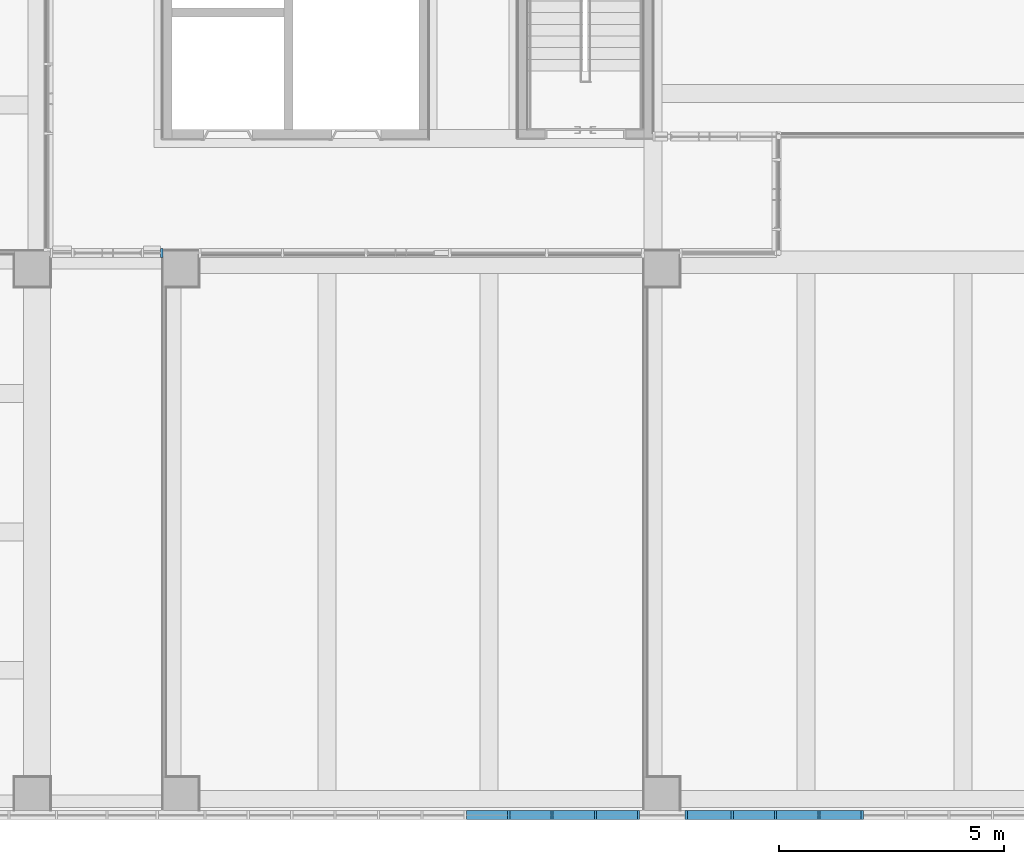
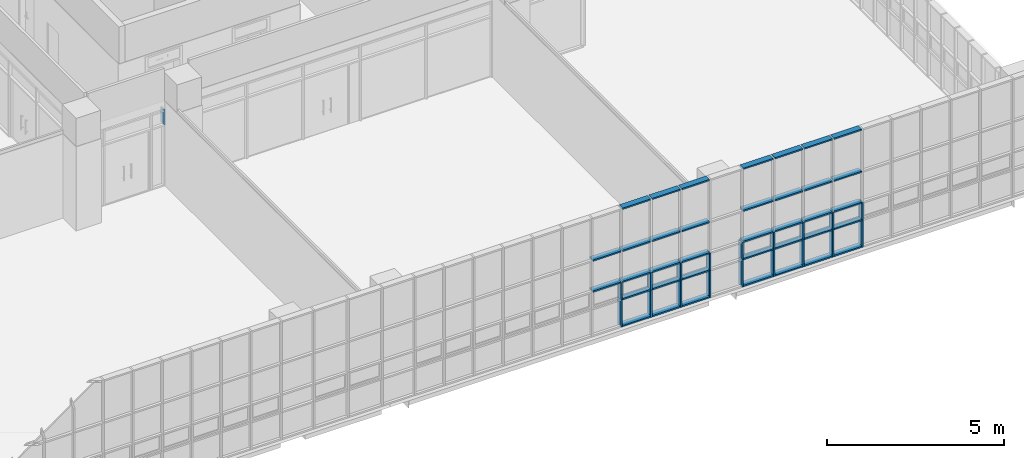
# One storey, part 16 of 76: 56 members, 2 elements without a shape of their own.
"""IFC2X3 building model written with IfcOpenShell, lengths in millimetres."""

from ifc_helpers import new_model, entity, si_unit, converted_unit, derived_unit, direction, frame, origin, origin_2d_with_axis, place, context, subcontext, project, spatial, rectangle, extrude, source, transform, mapped, material, type_object, type_shapes, element, aggregate, save


model = new_model("IFC2X3")

# Units and contexts
model_context = context("Model", 3, precision=0.01, world=origin(), true_north=direction((6.123031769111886e-17, 1.0)))
body_context = subcontext(model_context, "Body", "Model", "MODEL_VIEW")
ifc_project = project(units=[si_unit("LENGTHUNIT", "METRE", prefix="MILLI"), si_unit("AREAUNIT", "SQUARE_METRE"), si_unit("VOLUMEUNIT", "CUBIC_METRE"), converted_unit("PLANEANGLEUNIT", "DEGREE", entity("IfcRatioMeasure", 0.017453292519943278), si_unit("PLANEANGLEUNIT", "RADIAN"), dimensions=[0, 0, 0, 0, 0, 0, 0]), si_unit("MASSUNIT", "GRAM", prefix="KILO"), derived_unit("MASSDENSITYUNIT", [(si_unit("MASSUNIT", "GRAM", prefix="KILO"), 1), (si_unit("LENGTHUNIT", "METRE"), -3)]), derived_unit("MOMENTOFINERTIAUNIT", [(si_unit("LENGTHUNIT", "METRE"), 4)]), si_unit("TIMEUNIT", "SECOND"), si_unit("FREQUENCYUNIT", "HERTZ"), si_unit("THERMODYNAMICTEMPERATUREUNIT", "DEGREE_CELSIUS"), derived_unit("THERMALTRANSMITTANCEUNIT", [(si_unit("MASSUNIT", "GRAM", prefix="KILO"), 1), (si_unit("THERMODYNAMICTEMPERATUREUNIT", "KELVIN"), -1), (si_unit("TIMEUNIT", "SECOND"), -3)]), derived_unit("VOLUMETRICFLOWRATEUNIT", [(si_unit("LENGTHUNIT", "METRE"), 3), (si_unit("TIMEUNIT", "SECOND"), -1)]), derived_unit("MASSFLOWRATEUNIT", [(si_unit("MASSUNIT", "GRAM", prefix="KILO"), 1), (si_unit("TIMEUNIT", "SECOND"), -1)]), derived_unit("ROTATIONALFREQUENCYUNIT", [(si_unit("TIMEUNIT", "SECOND"), -1)]), si_unit("ELECTRICCURRENTUNIT", "AMPERE"), si_unit("ELECTRICVOLTAGEUNIT", "VOLT"), si_unit("POWERUNIT", "WATT"), si_unit("FORCEUNIT", "NEWTON", prefix="KILO"), si_unit("ILLUMINANCEUNIT", "LUX"), si_unit("LUMINOUSFLUXUNIT", "LUMEN"), si_unit("LUMINOUSINTENSITYUNIT", "CANDELA"), derived_unit("USERDEFINED", [(si_unit("MASSUNIT", "GRAM", prefix="KILO"), -1), (si_unit("LENGTHUNIT", "METRE"), -2), (si_unit("TIMEUNIT", "SECOND"), 3), (si_unit("LUMINOUSFLUXUNIT", "LUMEN"), 1)]), derived_unit("SOUNDPOWERUNIT", [(si_unit("MASSUNIT", "GRAM", prefix="KILO"), 1), (si_unit("LENGTHUNIT", "METRE"), 2), (si_unit("TIMEUNIT", "SECOND"), -3)]), derived_unit("SOUNDPRESSUREUNIT", [(si_unit("MASSUNIT", "GRAM", prefix="KILO"), 1), (si_unit("LENGTHUNIT", "METRE"), -1), (si_unit("TIMEUNIT", "SECOND"), -2)]), derived_unit("LINEARVELOCITYUNIT", [(si_unit("LENGTHUNIT", "METRE"), 1), (si_unit("TIMEUNIT", "SECOND"), -1)]), si_unit("PRESSUREUNIT", "PASCAL"), derived_unit("USERDEFINED", [(si_unit("LENGTHUNIT", "METRE"), -2), (si_unit("MASSUNIT", "GRAM", prefix="KILO"), 1), (si_unit("TIMEUNIT", "SECOND"), -2)]), derived_unit("LINEARFORCEUNIT", [(si_unit("MASSUNIT", "GRAM", prefix="KILO"), 1), (si_unit("LENGTHUNIT", "METRE"), 1), (si_unit("TIMEUNIT", "SECOND"), -2), (si_unit("LENGTHUNIT", "METRE"), -1)]), derived_unit("PLANARFORCEUNIT", [(si_unit("MASSUNIT", "GRAM", prefix="KILO"), 1), (si_unit("LENGTHUNIT", "METRE"), 1), (si_unit("TIMEUNIT", "SECOND"), -2), (si_unit("LENGTHUNIT", "METRE"), -2)])], contexts=[model_context])

# Site, building, storey
site_placement = place(None, frame((-14167.972527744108, -657.2125860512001, 0.0)))
site = spatial("IfcSite", under=ifc_project, at=site_placement, Name="Default", CompositionType="ELEMENT")
building_placement = place(site_placement, origin())
building = spatial("IfcBuilding", under=site, at=building_placement, Name="Sample Building", CompositionType="ELEMENT")
storey_placement = place(building_placement, frame((0.0, 0.0, 9300.0)))
storey = spatial("IfcBuildingStorey", under=building, at=storey_placement, Name="지상 3층", CompositionType="ELEMENT", Elevation=9300.000000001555)

# Curtain wall, members
curtain_wall_type = type_object("IfcCurtainWallType", Name="커튼월:CW112-스테인리스 스틸 커튼월", PredefinedType="NOTDEFINED")
curtain_wall_1_placement = place(storey_placement, frame((0.0, 0.0, -9300.0)))
curtain_wall_1 = element("IfcCurtainWall", 1, at=curtain_wall_1_placement, inside=storey, type_object=curtain_wall_type, Name="커튼월:CW112-스테인리스 스틸 커튼월", ObjectType="커튼월:CW112-스테인리스 스틸 커튼월")
ifc_material = material(Name="<Unnamed>")
member_type_1 = type_object("IfcMemberType", Name="직사각형 멀리언:CW200-직사각형 멀리언 50x200mm", PredefinedType="MULLION", material=ifc_material)
shared_shape_1 = source(origin(), body_context, "Body", "SweptSolid", [
    extrude(rectangle(XDim=200.0, YDim=50.0, at=origin_2d_with_axis()), frame((0.0, 0.0, -600.0), z_axis=(0.0, 0.0, 1.0), x_axis=(0.0, -1.0, 0.0)), (0.0, 0.0, 1.0), 600.0),
])
type_shapes(member_type_1, [shared_shape_1])
member_1_placement = place(curtain_wall_1_placement, frame((37760.15607007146, 507.21229514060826, 10330.0), z_axis=(0.0, 0.0, -1.0), x_axis=(1.0, 0.0, 0.0)))
member_1 = element("IfcMember", 2, at=member_1_placement, type_object=member_type_1, material=ifc_material, Name="직사각형 멀리언:CW200-직사각형 멀리언 50x200mm", ObjectType="직사각형 멀리언:CW200-직사각형 멀리언 50x200mm", context=body_context, shape_type="MappedRepresentation", body=[
    mapped(shared_shape_1, transform((0.0, 0.0, 0.0), scale=1.0)),
])
member_2_placement = place(curtain_wall_1_placement, frame((38725.156070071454, 507.21229514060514, 10330.0), z_axis=(0.0, 0.0, -1.0), x_axis=(1.0, 0.0, 0.0)))
member_2 = element("IfcMember", 3, at=member_2_placement, type_object=member_type_1, material=ifc_material, Name="직사각형 멀리언:CW200-직사각형 멀리언 50x200mm", ObjectType="직사각형 멀리언:CW200-직사각형 멀리언 50x200mm", context=body_context, shape_type="MappedRepresentation", body=[
    mapped(shared_shape_1, transform((0.0, 0.0, 0.0), scale=1.0)),
])
member_3_placement = place(curtain_wall_1_placement, frame((39690.15607007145, 507.212295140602, 10330.0), z_axis=(0.0, 0.0, -1.0), x_axis=(1.0, 0.0, 0.0)))
member_3 = element("IfcMember", 4, at=member_3_placement, type_object=member_type_1, material=ifc_material, Name="직사각형 멀리언:CW200-직사각형 멀리언 50x200mm", ObjectType="직사각형 멀리언:CW200-직사각형 멀리언 50x200mm", context=body_context, shape_type="MappedRepresentation", body=[
    mapped(shared_shape_1, transform((0.0, 0.0, 0.0), scale=1.0)),
])
member_4_placement = place(curtain_wall_1_placement, frame((41710.15607007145, 507.21229514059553, 10330.0), z_axis=(0.0, 0.0, -1.0), x_axis=(1.0, 0.0, 0.0)))
member_4 = element("IfcMember", 5, at=member_4_placement, type_object=member_type_1, material=ifc_material, Name="직사각형 멀리언:CW200-직사각형 멀리언 50x200mm", ObjectType="직사각형 멀리언:CW200-직사각형 멀리언 50x200mm", context=body_context, shape_type="MappedRepresentation", body=[
    mapped(shared_shape_1, transform((0.0, 0.0, 0.0), scale=1.0)),
])
member_5_placement = place(curtain_wall_1_placement, frame((42730.156070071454, 507.2122951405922, 10330.0), z_axis=(0.0, 0.0, -1.0), x_axis=(1.0, 0.0, 0.0)))
member_5 = element("IfcMember", 6, at=member_5_placement, type_object=member_type_1, material=ifc_material, Name="직사각형 멀리언:CW200-직사각형 멀리언 50x200mm", ObjectType="직사각형 멀리언:CW200-직사각형 멀리언 50x200mm", context=body_context, shape_type="MappedRepresentation", body=[
    mapped(shared_shape_1, transform((0.0, 0.0, 0.0), scale=1.0)),
])
member_6_placement = place(curtain_wall_1_placement, frame((43695.156070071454, 507.2122951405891, 10330.0), z_axis=(0.0, 0.0, -1.0), x_axis=(1.0, 0.0, 0.0)))
member_6 = element("IfcMember", 7, at=member_6_placement, type_object=member_type_1, material=ifc_material, Name="직사각형 멀리언:CW200-직사각형 멀리언 50x200mm", ObjectType="직사각형 멀리언:CW200-직사각형 멀리언 50x200mm", context=body_context, shape_type="MappedRepresentation", body=[
    mapped(shared_shape_1, transform((0.0, 0.0, 0.0), scale=1.0)),
])
member_7_placement = place(curtain_wall_1_placement, frame((44660.15607007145, 507.212295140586, 10330.0), z_axis=(0.0, 0.0, -1.0), x_axis=(1.0, 0.0, 0.0)))
member_7 = element("IfcMember", 8, at=member_7_placement, type_object=member_type_1, material=ifc_material, Name="직사각형 멀리언:CW200-직사각형 멀리언 50x200mm", ObjectType="직사각형 멀리언:CW200-직사각형 멀리언 50x200mm", context=body_context, shape_type="MappedRepresentation", body=[
    mapped(shared_shape_1, transform((0.0, 0.0, 0.0), scale=1.0)),
])
member_8_placement = place(curtain_wall_1_placement, frame((45625.15607007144, 507.21229514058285, 10330.0), z_axis=(0.0, 0.0, -1.0), x_axis=(1.0, 0.0, 0.0)))
member_8 = element("IfcMember", 9, at=member_8_placement, type_object=member_type_1, material=ifc_material, Name="직사각형 멀리언:CW200-직사각형 멀리언 50x200mm", ObjectType="직사각형 멀리언:CW200-직사각형 멀리언 50x200mm", context=body_context, shape_type="MappedRepresentation", body=[
    mapped(shared_shape_1, transform((0.0, 0.0, 0.0), scale=1.0)),
])
member_9_placement = place(curtain_wall_1_placement, frame((40650.15607007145, 507.2122951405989, 10330.0), z_axis=(0.0, 0.0, -1.0), x_axis=(1.0, 0.0, 0.0)))
member_9 = element("IfcMember", 10, at=member_9_placement, type_object=member_type_1, material=ifc_material, Name="직사각형 멀리언:CW200-직사각형 멀리언 50x200mm", ObjectType="직사각형 멀리언:CW200-직사각형 멀리언 50x200mm", context=body_context, shape_type="MappedRepresentation", body=[
    mapped(shared_shape_1, transform((0.0, 0.0, 0.0), scale=1.0)),
])

# Curtain wall, member
curtain_wall_2_placement = place(storey_placement, frame((0.0, 0.0, -9300.0)))
curtain_wall_2 = element("IfcCurtainWall", 11, at=curtain_wall_2_placement, inside=storey, type_object=curtain_wall_type, Name="커튼월:CW112-스테인리스 스틸 커튼월", ObjectType="커튼월:CW112-스테인리스 스틸 커튼월")
member_type_2 = type_object("IfcMemberType", Name="직사각형 멀리언:CW200-직사각형 멀리언 50x200mm", PredefinedType="MULLION", material=ifc_material)
shared_shape_2 = source(origin(), body_context, "Body", "SweptSolid", [
    extrude(rectangle(XDim=200.0, YDim=50.0, at=origin_2d_with_axis()), frame((-25.0, 0.0, -520.0), z_axis=(0.0, 0.0, 1.0), x_axis=(0.0, -1.0, 0.0)), (0.0, 0.0, 1.0), 520.0000000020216),
])
type_shapes(member_type_2, [shared_shape_2])
member_10_placement = place(curtain_wall_2_placement, frame((30067.972463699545, 13012.212307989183, 12000.0)))
member_10 = element("IfcMember", 12, at=member_10_placement, type_object=member_type_2, material=ifc_material, Name="직사각형 멀리언:CW200-직사각형 멀리언 50x200mm", ObjectType="직사각형 멀리언:CW200-직사각형 멀리언 50x200mm", context=body_context, shape_type="MappedRepresentation", body=[
    mapped(shared_shape_2, transform((0.0, 0.0, 0.0), scale=1.0)),
])
aggregate(curtain_wall_2, [member_10])

# Member
member_type_3 = type_object("IfcMemberType", Name="직사각형 멀리언:CW200-직사각형 멀리언 50x200mm", PredefinedType="MULLION", material=ifc_material)
shared_shape_3 = source(origin(), body_context, "Body", "SweptSolid", [
    extrude(rectangle(XDim=200.0, YDim=50.0, at=origin_2d_with_axis()), frame((0.0, 0.0, -950.0), z_axis=(0.0, 0.0, 1.0), x_axis=(0.0, -1.0, 0.0)), (0.0, 0.0, 1.0), 949.9999999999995),
])
type_shapes(member_type_3, [shared_shape_3])
member_11_placement = place(curtain_wall_1_placement, frame((37760.15607007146, 507.21229514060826, 9380.0), z_axis=(0.0, 0.0, -1.0), x_axis=(1.0, 0.0, 0.0)))
member_11 = element("IfcMember", 13, at=member_11_placement, type_object=member_type_3, material=ifc_material, Name="직사각형 멀리언:CW200-직사각형 멀리언 50x200mm", ObjectType="직사각형 멀리언:CW200-직사각형 멀리언 50x200mm", context=body_context, shape_type="MappedRepresentation", body=[
    mapped(shared_shape_3, transform((0.0, 0.0, 0.0), scale=1.0)),
])

member_12_placement = place(curtain_wall_1_placement, frame((38725.156070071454, 507.21229514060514, 9380.0), z_axis=(0.0, 0.0, -1.0), x_axis=(1.0, 0.0, 0.0)))
member_12 = element("IfcMember", 14, at=member_12_placement, type_object=member_type_3, material=ifc_material, Name="직사각형 멀리언:CW200-직사각형 멀리언 50x200mm", ObjectType="직사각형 멀리언:CW200-직사각형 멀리언 50x200mm", context=body_context, shape_type="MappedRepresentation", body=[
    mapped(shared_shape_3, transform((0.0, 0.0, 0.0), scale=1.0)),
])

member_13_placement = place(curtain_wall_1_placement, frame((39690.15607007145, 507.212295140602, 9380.0), z_axis=(0.0, 0.0, -1.0), x_axis=(1.0, 0.0, 0.0)))
member_13 = element("IfcMember", 15, at=member_13_placement, type_object=member_type_3, material=ifc_material, Name="직사각형 멀리언:CW200-직사각형 멀리언 50x200mm", ObjectType="직사각형 멀리언:CW200-직사각형 멀리언 50x200mm", context=body_context, shape_type="MappedRepresentation", body=[
    mapped(shared_shape_3, transform((0.0, 0.0, 0.0), scale=1.0)),
])

member_14_placement = place(curtain_wall_1_placement, frame((41710.15607007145, 507.21229514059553, 9380.0), z_axis=(0.0, 0.0, -1.0), x_axis=(1.0, 0.0, 0.0)))
member_14 = element("IfcMember", 16, at=member_14_placement, type_object=member_type_3, material=ifc_material, Name="직사각형 멀리언:CW200-직사각형 멀리언 50x200mm", ObjectType="직사각형 멀리언:CW200-직사각형 멀리언 50x200mm", context=body_context, shape_type="MappedRepresentation", body=[
    mapped(shared_shape_3, transform((0.0, 0.0, 0.0), scale=1.0)),
])

member_15_placement = place(curtain_wall_1_placement, frame((42730.156070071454, 507.2122951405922, 9380.0), z_axis=(0.0, 0.0, -1.0), x_axis=(1.0, 0.0, 0.0)))
member_15 = element("IfcMember", 17, at=member_15_placement, type_object=member_type_3, material=ifc_material, Name="직사각형 멀리언:CW200-직사각형 멀리언 50x200mm", ObjectType="직사각형 멀리언:CW200-직사각형 멀리언 50x200mm", context=body_context, shape_type="MappedRepresentation", body=[
    mapped(shared_shape_3, transform((0.0, 0.0, 0.0), scale=1.0)),
])

member_16_placement = place(curtain_wall_1_placement, frame((43695.15607007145, 507.2122951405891, 9380.0), z_axis=(0.0, 0.0, -1.0), x_axis=(1.0, 0.0, 0.0)))
member_16 = element("IfcMember", 18, at=member_16_placement, type_object=member_type_3, material=ifc_material, Name="직사각형 멀리언:CW200-직사각형 멀리언 50x200mm", ObjectType="직사각형 멀리언:CW200-직사각형 멀리언 50x200mm", context=body_context, shape_type="MappedRepresentation", body=[
    mapped(shared_shape_3, transform((0.0, 0.0, 0.0), scale=1.0)),
])

member_17_placement = place(curtain_wall_1_placement, frame((44660.15607007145, 507.212295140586, 9380.0), z_axis=(0.0, 0.0, -1.0), x_axis=(1.0, 0.0, 0.0)))
member_17 = element("IfcMember", 19, at=member_17_placement, type_object=member_type_3, material=ifc_material, Name="직사각형 멀리언:CW200-직사각형 멀리언 50x200mm", ObjectType="직사각형 멀리언:CW200-직사각형 멀리언 50x200mm", context=body_context, shape_type="MappedRepresentation", body=[
    mapped(shared_shape_3, transform((0.0, 0.0, 0.0), scale=1.0)),
])

member_18_placement = place(curtain_wall_1_placement, frame((45625.15607007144, 507.21229514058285, 9380.0), z_axis=(0.0, 0.0, -1.0), x_axis=(1.0, 0.0, 0.0)))
member_18 = element("IfcMember", 20, at=member_18_placement, type_object=member_type_3, material=ifc_material, Name="직사각형 멀리언:CW200-직사각형 멀리언 50x200mm", ObjectType="직사각형 멀리언:CW200-직사각형 멀리언 50x200mm", context=body_context, shape_type="MappedRepresentation", body=[
    mapped(shared_shape_3, transform((0.0, 0.0, 0.0), scale=1.0)),
])

member_19_placement = place(curtain_wall_1_placement, frame((40650.15607007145, 507.2122951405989, 9380.0), z_axis=(0.0, 0.0, -1.0), x_axis=(1.0, 0.0, 0.0)))
member_19 = element("IfcMember", 21, at=member_19_placement, type_object=member_type_3, material=ifc_material, Name="직사각형 멀리언:CW200-직사각형 멀리언 50x200mm", ObjectType="직사각형 멀리언:CW200-직사각형 멀리언 50x200mm", context=body_context, shape_type="MappedRepresentation", body=[
    mapped(shared_shape_3, transform((0.0, 0.0, 0.0), scale=1.0)),
])

member_type_4 = type_object("IfcMemberType", Name="직사각형 멀리언:CW200-직사각형 멀리언 50x200mm", PredefinedType="MULLION", material=ifc_material)
shared_shape_4 = source(origin(), body_context, "Body", "SweptSolid", [
    extrude(rectangle(XDim=200.0, YDim=50.0, at=origin_2d_with_axis()), frame((-25.0, 0.0, -915.0), z_axis=(0.0, 0.0, 1.0), x_axis=(0.0, -1.0, 0.0)), (0.0, 0.0, 1.0), 914.9999999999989),
])
type_shapes(member_type_4, [shared_shape_4])
member_20_placement = place(curtain_wall_1_placement, frame((37785.15607007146, 507.21229514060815, 9380.0), z_axis=(-1.0, 0.0, 0.0), x_axis=(0.0, 0.0, -1.0)))
member_20 = element("IfcMember", 22, at=member_20_placement, type_object=member_type_4, material=ifc_material, Name="직사각형 멀리언:CW200-직사각형 멀리언 50x200mm", ObjectType="직사각형 멀리언:CW200-직사각형 멀리언 50x200mm", context=body_context, shape_type="MappedRepresentation", body=[
    mapped(shared_shape_4, transform((0.0, 0.0, 0.0), scale=1.0)),
])

member_21_placement = place(curtain_wall_1_placement, frame((38750.156070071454, 507.2122951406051, 9380.0), z_axis=(-1.0, 0.0, 0.0), x_axis=(0.0, 0.0, -1.0)))
member_21 = element("IfcMember", 23, at=member_21_placement, type_object=member_type_4, material=ifc_material, Name="직사각형 멀리언:CW200-직사각형 멀리언 50x200mm", ObjectType="직사각형 멀리언:CW200-직사각형 멀리언 50x200mm", context=body_context, shape_type="MappedRepresentation", body=[
    mapped(shared_shape_4, transform((0.0, 0.0, 0.0), scale=1.0)),
])

member_22_placement = place(curtain_wall_1_placement, frame((42755.156070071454, 507.2122951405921, 9380.0), z_axis=(-1.0, 0.0, 0.0), x_axis=(0.0, 0.0, -1.0)))
member_22 = element("IfcMember", 24, at=member_22_placement, type_object=member_type_4, material=ifc_material, Name="직사각형 멀리언:CW200-직사각형 멀리언 50x200mm", ObjectType="직사각형 멀리언:CW200-직사각형 멀리언 50x200mm", context=body_context, shape_type="MappedRepresentation", body=[
    mapped(shared_shape_4, transform((0.0, 0.0, 0.0), scale=1.0)),
])

member_23_placement = place(curtain_wall_1_placement, frame((43720.156070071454, 507.212295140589, 9380.0), z_axis=(-1.0, 0.0, 0.0), x_axis=(0.0, 0.0, -1.0)))
member_23 = element("IfcMember", 25, at=member_23_placement, type_object=member_type_4, material=ifc_material, Name="직사각형 멀리언:CW200-직사각형 멀리언 50x200mm", ObjectType="직사각형 멀리언:CW200-직사각형 멀리언 50x200mm", context=body_context, shape_type="MappedRepresentation", body=[
    mapped(shared_shape_4, transform((0.0, 0.0, 0.0), scale=1.0)),
])

member_24_placement = place(curtain_wall_1_placement, frame((44685.15607007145, 507.2122951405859, 9380.0), z_axis=(-1.0, 0.0, 0.0), x_axis=(0.0, 0.0, -1.0)))
member_24 = element("IfcMember", 26, at=member_24_placement, type_object=member_type_4, material=ifc_material, Name="직사각형 멀리언:CW200-직사각형 멀리언 50x200mm", ObjectType="직사각형 멀리언:CW200-직사각형 멀리언 50x200mm", context=body_context, shape_type="MappedRepresentation", body=[
    mapped(shared_shape_4, transform((0.0, 0.0, 0.0), scale=1.0)),
])

member_type_5 = type_object("IfcMemberType", Name="직사각형 멀리언:CW200-직사각형 멀리언 50x200mm", PredefinedType="MULLION", material=ifc_material)
shared_shape_5 = source(origin(), body_context, "Body", "SweptSolid", [
    extrude(rectangle(XDim=200.0, YDim=50.0, at=origin_2d_with_axis()), frame((0.0, 0.0, -915.0), z_axis=(0.0, 0.0, 1.0), x_axis=(0.0, -1.0, 0.0)), (0.0, 0.0, 1.0), 915.000000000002),
])
type_shapes(member_type_5, [shared_shape_5])
member_25_placement = place(curtain_wall_1_placement, frame((38700.156070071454, 507.2122951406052, 10330.0), z_axis=(1.0, 0.0, 0.0), x_axis=(0.0, 0.0, 1.0)))
member_25 = element("IfcMember", 27, at=member_25_placement, type_object=member_type_5, material=ifc_material, Name="직사각형 멀리언:CW200-직사각형 멀리언 50x200mm", ObjectType="직사각형 멀리언:CW200-직사각형 멀리언 50x200mm", context=body_context, shape_type="MappedRepresentation", body=[
    mapped(shared_shape_5, transform((0.0, 0.0, 0.0), scale=1.0)),
])

member_26_placement = place(curtain_wall_1_placement, frame((39665.15607007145, 507.21229514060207, 10330.0), z_axis=(1.0, 0.0, 0.0), x_axis=(0.0, 0.0, 1.0)))
member_26 = element("IfcMember", 28, at=member_26_placement, type_object=member_type_5, material=ifc_material, Name="직사각형 멀리언:CW200-직사각형 멀리언 50x200mm", ObjectType="직사각형 멀리언:CW200-직사각형 멀리언 50x200mm", context=body_context, shape_type="MappedRepresentation", body=[
    mapped(shared_shape_5, transform((0.0, 0.0, 0.0), scale=1.0)),
])

member_27_placement = place(curtain_wall_1_placement, frame((37735.15607007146, 507.2122951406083, 10930.0), z_axis=(1.0, 0.0, 0.0), x_axis=(0.0, 0.0, 1.0)))
member_27 = element("IfcMember", 29, at=member_27_placement, type_object=member_type_5, material=ifc_material, Name="직사각형 멀리언:CW200-직사각형 멀리언 50x200mm", ObjectType="직사각형 멀리언:CW200-직사각형 멀리언 50x200mm", context=body_context, shape_type="MappedRepresentation", body=[
    mapped(shared_shape_5, transform((0.0, 0.0, 0.0), scale=1.0)),
])

member_28_placement = place(curtain_wall_1_placement, frame((38700.156070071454, 507.2122951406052, 10930.0), z_axis=(1.0, 0.0, 0.0), x_axis=(0.0, 0.0, 1.0)))
member_28 = element("IfcMember", 30, at=member_28_placement, type_object=member_type_5, material=ifc_material, Name="직사각형 멀리언:CW200-직사각형 멀리언 50x200mm", ObjectType="직사각형 멀리언:CW200-직사각형 멀리언 50x200mm", context=body_context, shape_type="MappedRepresentation", body=[
    mapped(shared_shape_5, transform((0.0, 0.0, 0.0), scale=1.0)),
])

member_29_placement = place(curtain_wall_1_placement, frame((39665.15607007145, 507.21229514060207, 10930.0), z_axis=(1.0, 0.0, 0.0), x_axis=(0.0, 0.0, 1.0)))
member_29 = element("IfcMember", 31, at=member_29_placement, type_object=member_type_5, material=ifc_material, Name="직사각형 멀리언:CW200-직사각형 멀리언 50x200mm", ObjectType="직사각형 멀리언:CW200-직사각형 멀리언 50x200mm", context=body_context, shape_type="MappedRepresentation", body=[
    mapped(shared_shape_5, transform((0.0, 0.0, 0.0), scale=1.0)),
])

member_30_placement = place(curtain_wall_1_placement, frame((37735.15607007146, 507.2122951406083, 12000.0), z_axis=(1.0, 0.0, 0.0), x_axis=(0.0, 0.0, 1.0)))
member_30 = element("IfcMember", 32, at=member_30_placement, type_object=member_type_5, material=ifc_material, Name="직사각형 멀리언:CW200-직사각형 멀리언 50x200mm", ObjectType="직사각형 멀리언:CW200-직사각형 멀리언 50x200mm", context=body_context, shape_type="MappedRepresentation", body=[
    mapped(shared_shape_5, transform((0.0, 0.0, 0.0), scale=1.0)),
])

member_31_placement = place(curtain_wall_1_placement, frame((38700.156070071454, 507.2122951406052, 12000.0), z_axis=(1.0, 0.0, 0.0), x_axis=(0.0, 0.0, 1.0)))
member_31 = element("IfcMember", 33, at=member_31_placement, type_object=member_type_5, material=ifc_material, Name="직사각형 멀리언:CW200-직사각형 멀리언 50x200mm", ObjectType="직사각형 멀리언:CW200-직사각형 멀리언 50x200mm", context=body_context, shape_type="MappedRepresentation", body=[
    mapped(shared_shape_5, transform((0.0, 0.0, 0.0), scale=1.0)),
])

member_32_placement = place(curtain_wall_1_placement, frame((39665.15607007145, 507.21229514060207, 12000.0), z_axis=(1.0, 0.0, 0.0), x_axis=(0.0, 0.0, 1.0)))
member_32 = element("IfcMember", 34, at=member_32_placement, type_object=member_type_5, material=ifc_material, Name="직사각형 멀리언:CW200-직사각형 멀리언 50x200mm", ObjectType="직사각형 멀리언:CW200-직사각형 멀리언 50x200mm", context=body_context, shape_type="MappedRepresentation", body=[
    mapped(shared_shape_5, transform((0.0, 0.0, 0.0), scale=1.0)),
])

member_33_placement = place(curtain_wall_1_placement, frame((43670.156070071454, 507.21229514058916, 10330.0), z_axis=(1.0, 0.0, 0.0), x_axis=(0.0, 0.0, 1.0)))
member_33 = element("IfcMember", 35, at=member_33_placement, type_object=member_type_5, material=ifc_material, Name="직사각형 멀리언:CW200-직사각형 멀리언 50x200mm", ObjectType="직사각형 멀리언:CW200-직사각형 멀리언 50x200mm", context=body_context, shape_type="MappedRepresentation", body=[
    mapped(shared_shape_5, transform((0.0, 0.0, 0.0), scale=1.0)),
])

member_34_placement = place(curtain_wall_1_placement, frame((44635.15607007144, 507.21229514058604, 10330.0), z_axis=(1.0, 0.0, 0.0), x_axis=(0.0, 0.0, 1.0)))
member_34 = element("IfcMember", 36, at=member_34_placement, type_object=member_type_5, material=ifc_material, Name="직사각형 멀리언:CW200-직사각형 멀리언 50x200mm", ObjectType="직사각형 멀리언:CW200-직사각형 멀리언 50x200mm", context=body_context, shape_type="MappedRepresentation", body=[
    mapped(shared_shape_5, transform((0.0, 0.0, 0.0), scale=1.0)),
])

member_35_placement = place(curtain_wall_1_placement, frame((45600.15607007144, 507.2122951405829, 10330.0), z_axis=(1.0, 0.0, 0.0), x_axis=(0.0, 0.0, 1.0)))
member_35 = element("IfcMember", 37, at=member_35_placement, type_object=member_type_5, material=ifc_material, Name="직사각형 멀리언:CW200-직사각형 멀리언 50x200mm", ObjectType="직사각형 멀리언:CW200-직사각형 멀리언 50x200mm", context=body_context, shape_type="MappedRepresentation", body=[
    mapped(shared_shape_5, transform((0.0, 0.0, 0.0), scale=1.0)),
])

member_36_placement = place(curtain_wall_1_placement, frame((43670.156070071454, 507.21229514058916, 10930.0), z_axis=(1.0, 0.0, 0.0), x_axis=(0.0, 0.0, 1.0)))
member_36 = element("IfcMember", 38, at=member_36_placement, type_object=member_type_5, material=ifc_material, Name="직사각형 멀리언:CW200-직사각형 멀리언 50x200mm", ObjectType="직사각형 멀리언:CW200-직사각형 멀리언 50x200mm", context=body_context, shape_type="MappedRepresentation", body=[
    mapped(shared_shape_5, transform((0.0, 0.0, 0.0), scale=1.0)),
])

member_37_placement = place(curtain_wall_1_placement, frame((44635.15607007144, 507.21229514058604, 10930.0), z_axis=(1.0, 0.0, 0.0), x_axis=(0.0, 0.0, 1.0)))
member_37 = element("IfcMember", 39, at=member_37_placement, type_object=member_type_5, material=ifc_material, Name="직사각형 멀리언:CW200-직사각형 멀리언 50x200mm", ObjectType="직사각형 멀리언:CW200-직사각형 멀리언 50x200mm", context=body_context, shape_type="MappedRepresentation", body=[
    mapped(shared_shape_5, transform((0.0, 0.0, 0.0), scale=1.0)),
])

member_38_placement = place(curtain_wall_1_placement, frame((45600.15607007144, 507.2122951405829, 10930.0), z_axis=(1.0, 0.0, 0.0), x_axis=(0.0, 0.0, 1.0)))
member_38 = element("IfcMember", 40, at=member_38_placement, type_object=member_type_5, material=ifc_material, Name="직사각형 멀리언:CW200-직사각형 멀리언 50x200mm", ObjectType="직사각형 멀리언:CW200-직사각형 멀리언 50x200mm", context=body_context, shape_type="MappedRepresentation", body=[
    mapped(shared_shape_5, transform((0.0, 0.0, 0.0), scale=1.0)),
])

member_39_placement = place(curtain_wall_1_placement, frame((43670.156070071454, 507.21229514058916, 12000.0), z_axis=(1.0, 0.0, 0.0), x_axis=(0.0, 0.0, 1.0)))
member_39 = element("IfcMember", 41, at=member_39_placement, type_object=member_type_5, material=ifc_material, Name="직사각형 멀리언:CW200-직사각형 멀리언 50x200mm", ObjectType="직사각형 멀리언:CW200-직사각형 멀리언 50x200mm", context=body_context, shape_type="MappedRepresentation", body=[
    mapped(shared_shape_5, transform((0.0, 0.0, 0.0), scale=1.0)),
])

member_40_placement = place(curtain_wall_1_placement, frame((44635.15607007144, 507.21229514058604, 12000.0), z_axis=(1.0, 0.0, 0.0), x_axis=(0.0, 0.0, 1.0)))
member_40 = element("IfcMember", 42, at=member_40_placement, type_object=member_type_5, material=ifc_material, Name="직사각형 멀리언:CW200-직사각형 멀리언 50x200mm", ObjectType="직사각형 멀리언:CW200-직사각형 멀리언 50x200mm", context=body_context, shape_type="MappedRepresentation", body=[
    mapped(shared_shape_5, transform((0.0, 0.0, 0.0), scale=1.0)),
])

member_41_placement = place(curtain_wall_1_placement, frame((45600.15607007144, 507.2122951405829, 12000.0), z_axis=(1.0, 0.0, 0.0), x_axis=(0.0, 0.0, 1.0)))
member_41 = element("IfcMember", 43, at=member_41_placement, type_object=member_type_5, material=ifc_material, Name="직사각형 멀리언:CW200-직사각형 멀리언 50x200mm", ObjectType="직사각형 멀리언:CW200-직사각형 멀리언 50x200mm", context=body_context, shape_type="MappedRepresentation", body=[
    mapped(shared_shape_5, transform((0.0, 0.0, 0.0), scale=1.0)),
])

member_type_6 = type_object("IfcMemberType", Name="직사각형 멀리언:CW200-직사각형 멀리언 50x200mm", PredefinedType="MULLION", material=ifc_material)
shared_shape_6 = source(origin(), body_context, "Body", "SweptSolid", [
    extrude(rectangle(XDim=200.0, YDim=50.0, at=origin_2d_with_axis()), frame((-25.0, 0.0, -915.0), z_axis=(0.0, 0.0, 1.0), x_axis=(0.0, -1.0, 0.0)), (0.0, 0.0, 1.0), 914.9999999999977),
])
type_shapes(member_type_6, [shared_shape_6])
member_42_placement = place(curtain_wall_1_placement, frame((38700.15607007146, 507.2122951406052, 13480.0), z_axis=(1.0, 0.0, 0.0), x_axis=(0.0, 0.0, 1.0)))
member_42 = element("IfcMember", 44, at=member_42_placement, type_object=member_type_6, material=ifc_material, Name="직사각형 멀리언:CW200-직사각형 멀리언 50x200mm", ObjectType="직사각형 멀리언:CW200-직사각형 멀리언 50x200mm", context=body_context, shape_type="MappedRepresentation", body=[
    mapped(shared_shape_6, transform((0.0, 0.0, 0.0), scale=1.0)),
])

member_43_placement = place(curtain_wall_1_placement, frame((39665.15607007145, 507.21229514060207, 13480.0), z_axis=(1.0, 0.0, 0.0), x_axis=(0.0, 0.0, 1.0)))
member_43 = element("IfcMember", 45, at=member_43_placement, type_object=member_type_6, material=ifc_material, Name="직사각형 멀리언:CW200-직사각형 멀리언 50x200mm", ObjectType="직사각형 멀리언:CW200-직사각형 멀리언 50x200mm", context=body_context, shape_type="MappedRepresentation", body=[
    mapped(shared_shape_6, transform((0.0, 0.0, 0.0), scale=1.0)),
])

member_44_placement = place(curtain_wall_1_placement, frame((43670.15607007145, 507.21229514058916, 13480.0), z_axis=(1.0, 0.0, 0.0), x_axis=(0.0, 0.0, 1.0)))
member_44 = element("IfcMember", 46, at=member_44_placement, type_object=member_type_6, material=ifc_material, Name="직사각형 멀리언:CW200-직사각형 멀리언 50x200mm", ObjectType="직사각형 멀리언:CW200-직사각형 멀리언 50x200mm", context=body_context, shape_type="MappedRepresentation", body=[
    mapped(shared_shape_6, transform((0.0, 0.0, 0.0), scale=1.0)),
])

member_45_placement = place(curtain_wall_1_placement, frame((44635.15607007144, 507.21229514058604, 13480.0), z_axis=(1.0, 0.0, 0.0), x_axis=(0.0, 0.0, 1.0)))
member_45 = element("IfcMember", 47, at=member_45_placement, type_object=member_type_6, material=ifc_material, Name="직사각형 멀리언:CW200-직사각형 멀리언 50x200mm", ObjectType="직사각형 멀리언:CW200-직사각형 멀리언 50x200mm", context=body_context, shape_type="MappedRepresentation", body=[
    mapped(shared_shape_6, transform((0.0, 0.0, 0.0), scale=1.0)),
])

member_46_placement = place(curtain_wall_1_placement, frame((45600.15607007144, 507.2122951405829, 13480.0), z_axis=(1.0, 0.0, 0.0), x_axis=(0.0, 0.0, 1.0)))
member_46 = element("IfcMember", 48, at=member_46_placement, type_object=member_type_6, material=ifc_material, Name="직사각형 멀리언:CW200-직사각형 멀리언 50x200mm", ObjectType="직사각형 멀리언:CW200-직사각형 멀리언 50x200mm", context=body_context, shape_type="MappedRepresentation", body=[
    mapped(shared_shape_6, transform((0.0, 0.0, 0.0), scale=1.0)),
])

member_type_7 = type_object("IfcMemberType", Name="직사각형 멀리언:CW200-직사각형 멀리언 50x200mm", PredefinedType="MULLION", material=ifc_material)
shared_shape_7 = source(origin(), body_context, "Body", "SweptSolid", [
    extrude(rectangle(XDim=200.0, YDim=50.0, at=origin_2d_with_axis()), frame((-25.0, 0.0, -910.0), z_axis=(0.0, 0.0, 1.0), x_axis=(0.0, -1.0, 0.0)), (0.0, 0.0, 1.0), 909.9999999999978),
])
type_shapes(member_type_7, [shared_shape_7])
member_47_placement = place(curtain_wall_1_placement, frame((39715.156070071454, 507.21229514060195, 9380.0), z_axis=(-1.0, 0.0, 0.0), x_axis=(0.0, 0.0, -1.0)))
member_47 = element("IfcMember", 49, at=member_47_placement, type_object=member_type_7, material=ifc_material, Name="직사각형 멀리언:CW200-직사각형 멀리언 50x200mm", ObjectType="직사각형 멀리언:CW200-직사각형 멀리언 50x200mm", context=body_context, shape_type="MappedRepresentation", body=[
    mapped(shared_shape_7, transform((0.0, 0.0, 0.0), scale=1.0)),
])

member_type_8 = type_object("IfcMemberType", Name="직사각형 멀리언:CW200-직사각형 멀리언 50x200mm", PredefinedType="MULLION", material=ifc_material)
shared_shape_8 = source(origin(), body_context, "Body", "SweptSolid", [
    extrude(rectangle(XDim=200.0, YDim=50.0, at=origin_2d_with_axis()), frame((0.0, 0.0, -910.0), z_axis=(0.0, 0.0, 1.0), x_axis=(0.0, -1.0, 0.0)), (0.0, 0.0, 1.0), 909.9999999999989),
])
type_shapes(member_type_8, [shared_shape_8])
member_48_placement = place(curtain_wall_1_placement, frame((40625.15607007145, 507.212295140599, 10330.0), z_axis=(1.0, 0.0, 0.0), x_axis=(0.0, 0.0, 1.0)))
member_48 = element("IfcMember", 50, at=member_48_placement, type_object=member_type_8, material=ifc_material, Name="직사각형 멀리언:CW200-직사각형 멀리언 50x200mm", ObjectType="직사각형 멀리언:CW200-직사각형 멀리언 50x200mm", context=body_context, shape_type="MappedRepresentation", body=[
    mapped(shared_shape_8, transform((0.0, 0.0, 0.0), scale=1.0)),
])

member_49_placement = place(curtain_wall_1_placement, frame((40625.15607007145, 507.212295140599, 10930.0), z_axis=(1.0, 0.0, 0.0), x_axis=(0.0, 0.0, 1.0)))
member_49 = element("IfcMember", 51, at=member_49_placement, type_object=member_type_8, material=ifc_material, Name="직사각형 멀리언:CW200-직사각형 멀리언 50x200mm", ObjectType="직사각형 멀리언:CW200-직사각형 멀리언 50x200mm", context=body_context, shape_type="MappedRepresentation", body=[
    mapped(shared_shape_8, transform((0.0, 0.0, 0.0), scale=1.0)),
])

member_50_placement = place(curtain_wall_1_placement, frame((40625.15607007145, 507.212295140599, 12000.0), z_axis=(1.0, 0.0, 0.0), x_axis=(0.0, 0.0, 1.0)))
member_50 = element("IfcMember", 52, at=member_50_placement, type_object=member_type_8, material=ifc_material, Name="직사각형 멀리언:CW200-직사각형 멀리언 50x200mm", ObjectType="직사각형 멀리언:CW200-직사각형 멀리언 50x200mm", context=body_context, shape_type="MappedRepresentation", body=[
    mapped(shared_shape_8, transform((0.0, 0.0, 0.0), scale=1.0)),
])

member_type_9 = type_object("IfcMemberType", Name="직사각형 멀리언:CW200-직사각형 멀리언 50x200mm", PredefinedType="MULLION", material=ifc_material)
shared_shape_9 = source(origin(), body_context, "Body", "SweptSolid", [
    extrude(rectangle(XDim=200.0, YDim=50.0, at=origin_2d_with_axis()), frame((-25.0, 0.0, -970.0), z_axis=(0.0, 0.0, 1.0), x_axis=(0.0, -1.0, 0.0)), (0.0, 0.0, 1.0), 970.0000000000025),
])
type_shapes(member_type_9, [shared_shape_9])
member_51_placement = place(curtain_wall_1_placement, frame((42705.15607007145, 507.2122951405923, 13480.0), z_axis=(1.0, 0.0, 0.0), x_axis=(0.0, 0.0, 1.0)))
member_51 = element("IfcMember", 53, at=member_51_placement, type_object=member_type_9, material=ifc_material, Name="직사각형 멀리언:CW200-직사각형 멀리언 50x200mm", ObjectType="직사각형 멀리언:CW200-직사각형 멀리언 50x200mm", context=body_context, shape_type="MappedRepresentation", body=[
    mapped(shared_shape_9, transform((0.0, 0.0, 0.0), scale=1.0)),
])

member_type_10 = type_object("IfcMemberType", Name="직사각형 멀리언:CW200-직사각형 멀리언 50x200mm", PredefinedType="MULLION", material=ifc_material)
shared_shape_10 = source(origin(), body_context, "Body", "SweptSolid", [
    extrude(rectangle(XDim=200.0, YDim=50.0, at=origin_2d_with_axis()), frame((-25.0, 0.0, -970.0), z_axis=(0.0, 0.0, 1.0), x_axis=(0.0, -1.0, 0.0)), (0.0, 0.0, 1.0), 970.0000000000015),
])
type_shapes(member_type_10, [shared_shape_10])
member_52_placement = place(curtain_wall_1_placement, frame((41735.156070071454, 507.2122951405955, 9380.0), z_axis=(-1.0, 0.0, 0.0), x_axis=(0.0, 0.0, -1.0)))
member_52 = element("IfcMember", 54, at=member_52_placement, type_object=member_type_10, material=ifc_material, Name="직사각형 멀리언:CW200-직사각형 멀리언 50x200mm", ObjectType="직사각형 멀리언:CW200-직사각형 멀리언 50x200mm", context=body_context, shape_type="MappedRepresentation", body=[
    mapped(shared_shape_10, transform((0.0, 0.0, 0.0), scale=1.0)),
])

member_type_11 = type_object("IfcMemberType", Name="직사각형 멀리언:CW200-직사각형 멀리언 50x200mm", PredefinedType="MULLION", material=ifc_material)
shared_shape_11 = source(origin(), body_context, "Body", "SweptSolid", [
    extrude(rectangle(XDim=200.0, YDim=50.0, at=origin_2d_with_axis()), frame((0.0, 0.0, -970.0), z_axis=(0.0, 0.0, 1.0), x_axis=(0.0, -1.0, 0.0)), (0.0, 0.0, 1.0), 970.0000000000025),
])
type_shapes(member_type_11, [shared_shape_11])
member_53_placement = place(curtain_wall_1_placement, frame((42705.15607007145, 507.2122951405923, 10330.0), z_axis=(1.0, 0.0, 0.0), x_axis=(0.0, 0.0, 1.0)))
member_53 = element("IfcMember", 55, at=member_53_placement, type_object=member_type_11, material=ifc_material, Name="직사각형 멀리언:CW200-직사각형 멀리언 50x200mm", ObjectType="직사각형 멀리언:CW200-직사각형 멀리언 50x200mm", context=body_context, shape_type="MappedRepresentation", body=[
    mapped(shared_shape_11, transform((0.0, 0.0, 0.0), scale=1.0)),
])

member_54_placement = place(curtain_wall_1_placement, frame((42705.15607007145, 507.2122951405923, 10930.0), z_axis=(1.0, 0.0, 0.0), x_axis=(0.0, 0.0, 1.0)))
member_54 = element("IfcMember", 56, at=member_54_placement, type_object=member_type_11, material=ifc_material, Name="직사각형 멀리언:CW200-직사각형 멀리언 50x200mm", ObjectType="직사각형 멀리언:CW200-직사각형 멀리언 50x200mm", context=body_context, shape_type="MappedRepresentation", body=[
    mapped(shared_shape_11, transform((0.0, 0.0, 0.0), scale=1.0)),
])

member_55_placement = place(curtain_wall_1_placement, frame((42705.15607007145, 507.2122951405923, 12000.0), z_axis=(1.0, 0.0, 0.0), x_axis=(0.0, 0.0, 1.0)))
member_55 = element("IfcMember", 57, at=member_55_placement, type_object=member_type_11, material=ifc_material, Name="직사각형 멀리언:CW200-직사각형 멀리언 50x200mm", ObjectType="직사각형 멀리언:CW200-직사각형 멀리언 50x200mm", context=body_context, shape_type="MappedRepresentation", body=[
    mapped(shared_shape_11, transform((0.0, 0.0, 0.0), scale=1.0)),
])

member_type_12 = type_object("IfcMemberType", Name="직사각형 멀리언:CW200-직사각형 멀리언 50x200mm", PredefinedType="MULLION", material=ifc_material)
shared_shape_12 = source(origin(), body_context, "Body", "SweptSolid", [
    extrude(rectangle(XDim=200.0, YDim=50.0, at=origin_2d_with_axis()), frame((-25.0, 0.0, -910.0), z_axis=(0.0, 0.0, 1.0), x_axis=(0.0, -1.0, 0.0)), (0.0, 0.0, 1.0), 909.9999999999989),
])
type_shapes(member_type_12, [shared_shape_12])
member_56_placement = place(curtain_wall_1_placement, frame((40625.15607007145, 507.212295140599, 13480.0), z_axis=(1.0, 0.0, 0.0), x_axis=(0.0, 0.0, 1.0)))
member_56 = element("IfcMember", 58, at=member_56_placement, type_object=member_type_12, material=ifc_material, Name="직사각형 멀리언:CW200-직사각형 멀리언 50x200mm", ObjectType="직사각형 멀리언:CW200-직사각형 멀리언 50x200mm", context=body_context, shape_type="MappedRepresentation", body=[
    mapped(shared_shape_12, transform((0.0, 0.0, 0.0), scale=1.0)),
])

aggregate(curtain_wall_1, [member_42, member_43, member_20, member_21, member_47, member_25, member_26, member_48, member_27, member_28, member_29, member_49, member_30, member_31, member_32, member_50, member_11, member_12, member_13, member_1, member_2, member_3, member_51, member_44, member_45, member_46, member_52, member_22, member_23, member_24, member_53, member_33, member_34, member_35, member_54, member_36, member_37, member_38, member_55, member_39, member_40, member_41, member_14, member_15, member_16, member_17, member_18, member_4, member_5, member_6, member_7, member_8, member_56, member_19, member_9])

save(model, "model.ifc")
